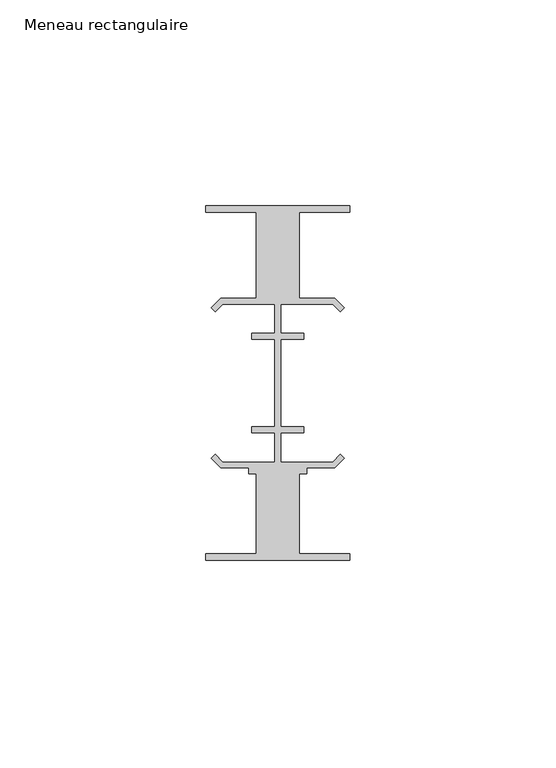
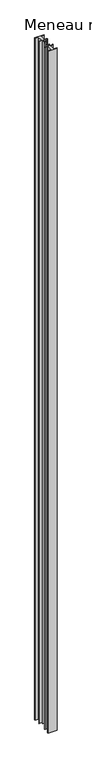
"""IFC4 building model written with IfcOpenShell, lengths in millimetres: member geometry, Meneau rectangulaire : JONCTION-T1-PA 94-KT1PA."""

import ifcopenshell
import ifcopenshell.guid

model = None  # the IFC model being written
_history = None  # IfcOwnerHistory: only IFC2X3 demands one
_inside = {}  # id of a spatial element -> (the spatial element, [elements in it])
_under = {}  # id of a project, library or spatial element -> (it, [spatial elements below it])
_declared = {}  # id of a project -> (the project, [libraries it declares])
_typed = {}  # id of a type object -> (the type object, [elements of that type])
_made_of = {}  # id of a material, layer set ... -> (it, [elements and type objects made of it])


def new_model(schema):
    """Start an empty IFC model of exactly this schema.

    Asked for "IFC4X3", IfcOpenShell would pick the latest addendum, in which some entities
    have other attributes; the version numbers below select the first issue.
    IFC2X3 requires an IfcOwnerHistory on every rooted entity: one is made here for all.
    """
    global model, _history
    if schema == "IFC4X3":
        model = ifcopenshell.file(schema_version=(4, 3, 0, 0))
    else:
        model = ifcopenshell.file(schema=schema)
    _inside.clear()
    _under.clear()
    _declared.clear()
    _typed.clear()
    _made_of.clear()
    _history = None
    if model.schema == "IFC2X3":
        org = make("IfcOrganization", Name="unknown")
        user = make(
            "IfcPersonAndOrganization",
            ThePerson=make("IfcPerson", FamilyName="unknown"),
            TheOrganization=org,
        )
        app = make(
            "IfcApplication",
            ApplicationDeveloper=org,
            Version="unknown",
            ApplicationFullName="unknown",
            ApplicationIdentifier="unknown",
        )
        _history = make(
            "IfcOwnerHistory",
            OwningUser=user,
            OwningApplication=app,
            ChangeAction="ADDED",
            CreationDate=0,
        )
    return model


def make(cls, **values):
    """One entity of the class cls with the attributes given. An attribute that is None is left unset."""
    return model.create_entity(
        cls, **{name: value for name, value in values.items() if value is not None}
    )


def rooted(cls, **values):
    """An entity with a GlobalId (a new one), such as an element, a storey or a relation."""
    return make(cls, GlobalId=ifcopenshell.guid.new(), OwnerHistory=_history, **values)


def si_unit(unit_type, name, prefix=None):
    """IfcSIUnit, for example si_unit("LENGTHUNIT", "METRE", prefix="MILLI")."""
    return make("IfcSIUnit", UnitType=unit_type, Prefix=prefix, Name=name)


def assignment(units):
    """IfcUnitAssignment: the units of a project."""
    return None if units is None else make("IfcUnitAssignment", Units=units)


def point(xyz):
    """IfcCartesianPoint."""
    return None if xyz is None else make("IfcCartesianPoint", Coordinates=xyz)


def direction(xyz):
    """IfcDirection."""
    return None if xyz is None else make("IfcDirection", DirectionRatios=xyz)


def frame(location, z_axis=None, x_axis=None):
    """IfcAxis2Placement3D, a coordinate frame: its origin and axes. An axis left out is left unset."""
    return make(
        "IfcAxis2Placement3D",
        Location=point(location),
        Axis=direction(z_axis),
        RefDirection=direction(x_axis),
    )


def origin():
    """The frame at (0, 0, 0) with its axes left unset."""
    return frame((0.0, 0.0, 0.0))


def place(relative_to, where):
    """IfcLocalPlacement: puts the frame where relative to a parent placement (None: the world)."""
    return make(
        "IfcLocalPlacement", PlacementRelTo=relative_to, RelativePlacement=where
    )


def context(
    kind, dimensions, precision=None, world=None, true_north=None, identifier=None
):
    """IfcGeometricRepresentationContext, for example the 3D "Model" context."""
    return make(
        "IfcGeometricRepresentationContext",
        ContextIdentifier=identifier,
        ContextType=kind,
        CoordinateSpaceDimension=dimensions,
        Precision=precision,
        WorldCoordinateSystem=world,
        TrueNorth=true_north,
    )


def project(units=None, contexts=None):
    """IfcProject with its units and contexts."""
    return rooted(
        "IfcProject",
        Name="project",
        RepresentationContexts=contexts,
        UnitsInContext=assignment(units),
    )


def spatial(cls, under=None, at=None, **own):
    """A site, building, storey or space (cls), placed at a placement, below another one or the project."""
    s = rooted(cls, ObjectPlacement=at, **own)
    if under is not None:
        _under.setdefault(under.id(), (under, []))[1].append(s)
    return s


def polyline(points):
    """IfcPolyline through the points."""
    return make("IfcPolyline", Points=[point(p) for p in points])


def outline(outer, holes=None, kind="AREA"):
    """IfcArbitraryClosedProfileDef: a profile drawn as a closed curve; with holes, ...WithVoids."""
    if holes is None:
        return make("IfcArbitraryClosedProfileDef", ProfileType=kind, OuterCurve=outer)
    return make(
        "IfcArbitraryProfileDefWithVoids",
        ProfileType=kind,
        OuterCurve=outer,
        InnerCurves=holes,
    )


def extrude(swept, where, along, depth):
    """IfcExtrudedAreaSolid: the profile swept, set in the frame where, extruded along a direction by depth."""
    return make(
        "IfcExtrudedAreaSolid",
        SweptArea=swept,
        Position=where,
        ExtrudedDirection=direction(along),
        Depth=depth,
    )


def shape(context_of_items, identifier, shape_type, items):
    """IfcShapeRepresentation: the items that make up one representation, for example the "Body"."""
    return make(
        "IfcShapeRepresentation",
        ContextOfItems=context_of_items,
        RepresentationIdentifier=identifier,
        RepresentationType=shape_type,
        Items=items,
    )


def source(mapping_origin, context_of_items, identifier, shape_type, items):
    """IfcRepresentationMap: a shape defined once, which mapped items show again and again."""
    return make(
        "IfcRepresentationMap",
        MappingOrigin=mapping_origin,
        MappedRepresentation=shape(context_of_items, identifier, shape_type, items),
    )


def transform(
    local_origin,
    x_axis=None,
    y_axis=None,
    z_axis=None,
    scale=None,
    scale2=None,
    scale3=None,
    uniform=True,
):
    """IfcCartesianTransformationOperator3D, or its non-uniform kind. x_axis, y_axis, z_axis: its Axis1, 2, 3."""
    if uniform:
        return make(
            "IfcCartesianTransformationOperator3D",
            Axis1=direction(x_axis),
            Axis2=direction(y_axis),
            LocalOrigin=point(local_origin),
            Scale=scale,
            Axis3=direction(z_axis),
        )
    return make(
        "IfcCartesianTransformationOperator3DnonUniform",
        Axis1=direction(x_axis),
        Axis2=direction(y_axis),
        LocalOrigin=point(local_origin),
        Scale=scale,
        Axis3=direction(z_axis),
        Scale2=scale2,
        Scale3=scale3,
    )


def mapped(mapping_source, mapping_target):
    """IfcMappedItem: shows the shape of a source again, moved by a transform."""
    return make(
        "IfcMappedItem", MappingSource=mapping_source, MappingTarget=mapping_target
    )


def made_of(thing, what):
    """Note that an element or type object is made of a material, layer set ...; save() writes the relation."""
    if what is not None:
        _made_of.setdefault(what.id(), (what, []))[1].append(thing)
    return thing


def element(
    cls,
    number,
    at=None,
    inside=None,
    cuts=None,
    type_object=None,
    material=None,
    context=None,
    identifier="Body",
    shape_type=None,
    held_by="IfcProductDefinitionShape",
    body=None,
    shapes=None,
    **own,
):
    """One element of the class cls, such as IfcWall. Its Tag is "e" and its number.

    at: its placement. inside: the storey or other place that contains it. cuts: it is an
    opening in that element (IfcRelVoidsElement). A single representation is given by context,
    identifier, shape_type and body (its items); several are given by shapes. held_by: the class
    of the entity that holds the representations. save() writes the other relations.
    """
    e = rooted(cls, Tag="e%d" % number, ObjectPlacement=at, **own)
    if body is not None:
        shapes = [shape(context, identifier, shape_type, body)]
    if shapes is not None:
        e.Representation = make(held_by, Representations=shapes)
    if inside is not None:
        _inside.setdefault(inside.id(), (inside, []))[1].append(e)
    if cuts is not None:
        rooted(
            "IfcRelVoidsElement", RelatingBuildingElement=cuts, RelatedOpeningElement=e
        )
    if type_object is not None:
        _typed.setdefault(type_object.id(), (type_object, []))[1].append(e)
    return made_of(e, material)


def aggregate(whole, parts):
    """IfcRelAggregates: a whole, such as a stair, and the parts it consists of."""
    return rooted("IfcRelAggregates", RelatingObject=whole, RelatedObjects=parts)


def save(model, path):
    """Write the relations noted so far, then the file.

    IfcRelAggregates (storeys below a building ...), IfcRelContainedInSpatialStructure (elements
    in a storey), IfcRelDefinesByType, IfcRelAssociatesMaterial and IfcRelDeclares: one each for
    every whole, place, type object, material and project.
    """
    for whole, parts in _under.values():
        aggregate(whole, parts)
    for where, things in _inside.values():
        rooted(
            "IfcRelContainedInSpatialStructure",
            RelatedElements=things,
            RelatingStructure=where,
        )
    for kind, things in _typed.values():
        rooted("IfcRelDefinesByType", RelatedObjects=things, RelatingType=kind)
    for what, things in _made_of.values():
        rooted("IfcRelAssociatesMaterial", RelatedObjects=things, RelatingMaterial=what)
    for by, libraries in _declared.values():
        rooted("IfcRelDeclares", RelatingContext=by, RelatedDefinitions=libraries)
    model.write(path)


def meneau_rectangulaire_f0905f04(model_context):
    return source(origin(), model_context, "Body", "SweptSolid", [
        extrude(outline(polyline([(5.2, 41.45), (5.2, 20.55), (13.9, 20.55), (16.1956797, 18.2543203), (15.2057302, 17.2643708), (13.320101, 19.15), (0.7, 19.15), (0.7, 12.05), (6.3, 12.05), (6.3, 10.65), (0.7, 10.65), (0.7, 0.0), (0.7, -10.7), (6.3, -10.7), (6.3, -12.1), (0.7, -12.1), (0.7, -19.25), (13.320101, -19.25), (15.2057302, -17.3643708), (16.1956797, -18.3543203), (13.9, -20.65), (7.0, -20.65), (7.0, -22.05), (5.2, -22.05), (5.2, -41.5171539), (17.5, -41.5171539), (17.5, -43.1144074), (-17.5, -43.1144074), (-17.5, -41.5171539), (-5.2, -41.5171539), (-5.2, -22.05), (-7.0, -22.05), (-7.0, -20.65), (-13.9, -20.65), (-16.1956797, -18.3543203), (-15.2057302, -17.3643708), (-13.320101, -19.25), (-0.7, -19.25), (-0.7, -12.1), (-6.3, -12.1), (-6.3, -10.7), (-0.7, -10.7), (-0.7, 0.0), (-0.7, 10.65), (-6.3, 10.65), (-6.3, 12.05), (-0.7, 12.05), (-0.7, 19.15), (-13.320101, 19.15), (-15.2057302, 17.2643708), (-16.1956797, 18.2543203), (-13.9, 20.55), (-5.2, 20.55), (-5.2, 41.45), (-17.5, 41.45), (-17.5, 43.0472535), (17.5, 43.0472535), (17.5, 41.45), (5.2, 41.45)])), frame((0.0, 0.0, -2715.0), z_axis=(0.0, 0.0, 1.0), x_axis=(1.0, 0.0, 0.0)), (0.0, 0.0, 1.0), 2715.0),
    ])


if __name__ == "__main__":
    model = new_model("IFC4")
    model_context = context("Model", 3, world=origin())
    ifc_project = project(units=[si_unit("LENGTHUNIT", "METRE", prefix="MILLI")], contexts=[model_context])
    site = spatial("IfcSite", under=ifc_project)
    building = spatial("IfcBuilding", under=site)
    placement = place(None, origin())
    meneau_rectangulaire_shape = meneau_rectangulaire_f0905f04(model_context)
    element("IfcMember", 1, ObjectType="Meneau rectangulaire : JONCTION-T1-PA 94-KT1PA", at=placement, inside=building, context=model_context, shape_type="MappedRepresentation", body=[
        mapped(meneau_rectangulaire_shape, transform((0.0, 0.0, 0.0), x_axis=(1.0, 0.0, 0.0), y_axis=(0.0, 1.0, 0.0), z_axis=(0.0, 0.0, 1.0))),
    ])
    save(model, "model.ifc")
